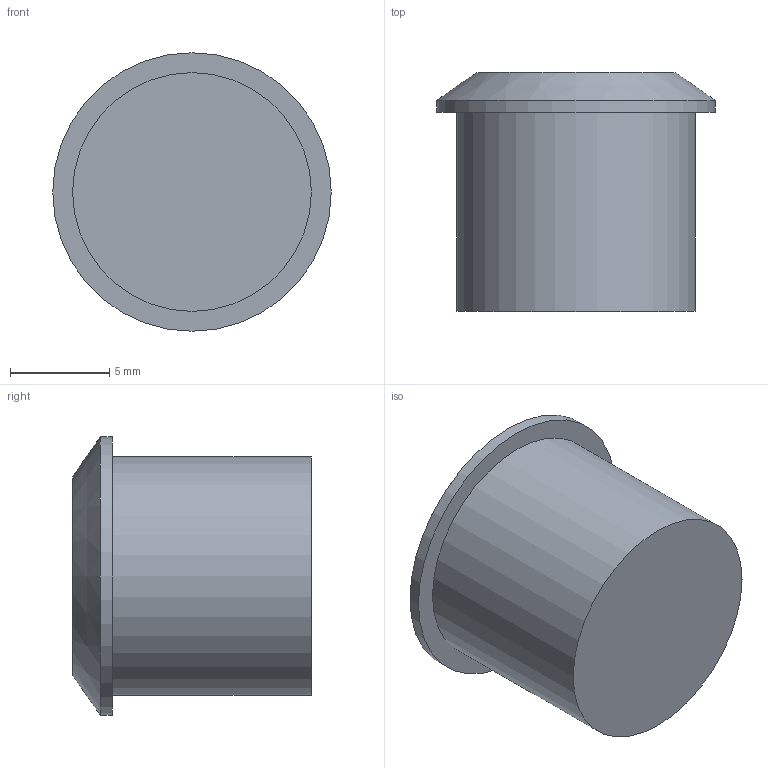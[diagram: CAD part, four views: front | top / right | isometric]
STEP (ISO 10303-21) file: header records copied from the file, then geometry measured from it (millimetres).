
FILE_DESCRIPTION(/* description */ ('STEP AP242 Edition 2','CAx-IF Rec.Pracs.---Representation and Presentation of Product Manufacturing Information (PMI)---4.0---2014-10-13','CAx-IF Rec.Pracs.---3D Tessellated Geometry---0.4---2014-09-14','2;1','CAx-IF Rec.Pracs.---User Defined Attributes---1.5---2016-08-15'),/* implementation_level */ '2;1');
FILE_NAME(/* name */ 'bb_v3 - button-housing',/* time_stamp */ '2026-05-01T07:59:49Z',/* author */ (''),/* organization */ (''),/* preprocessor_version */ 'ST-DEVELOPER v20',/* originating_system */ 'ONSHAPE BY PTC INC, 1.214',/* authorisation */ ' ');
FILE_SCHEMA (('AP242_MANAGED_MODEL_BASED_3D_ENGINEERING_MIM_LF { 1 0 10303 442 3 1 4 }'));
Length unit declared in the file: metre
Products named in the file (1): button-housing
Bounding box: 14 x 12 x 14 mm (x, y, z)
Volume: 1192.3 mm3; surface area: 812.7 mm2
Topology: 1 solids, 1 shells, 8 faces, 11 edges, 7 vertices
Faces by surface type: plane 4, cylinder 3, cone 1
Full cylindrical faces by diameter (mm): 9 x1, 12 x1, 14 x1
Entity records: 176 total; most frequent: DIRECTION 32, CARTESIAN_POINT 23, AXIS2_PLACEMENT_3D 16, ORIENTED_EDGE 14, EDGE_LOOP 14, FACE_BOUND 14, ADVANCED_FACE 8, EDGE_CURVE 7
